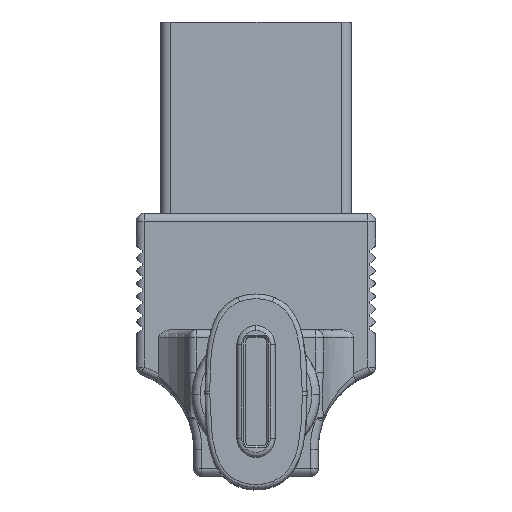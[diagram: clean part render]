
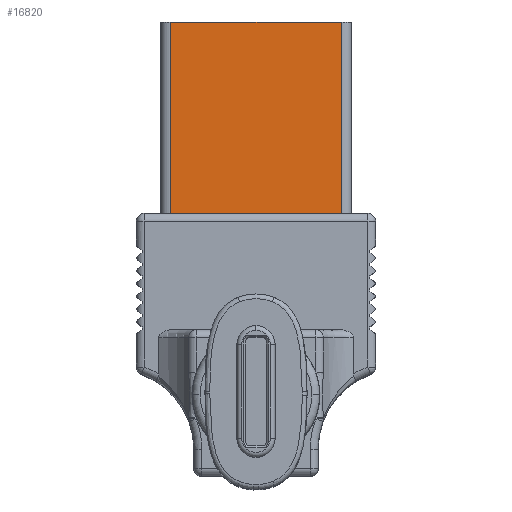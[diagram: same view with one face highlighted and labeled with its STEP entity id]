
A CAD part, top view. The second image highlights one B-rep face of the part: STEP entity #16820.
In plain terms, the highlighted planar face has unit normal (0, 0, 1).
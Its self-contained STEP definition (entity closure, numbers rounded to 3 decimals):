
#180 = AXIS2_PLACEMENT_3D ( 'NONE', #6158, #4679, #8715 ) ;
#766 = CARTESIAN_POINT ( 'NONE',  ( 5.36, 23.4, 2.25 ) ) ;
#817 = FACE_OUTER_BOUND ( 'NONE', #13948, .T. ) ;
#2332 = ORIENTED_EDGE ( 'NONE', *, *, #4817, .F. ) ;
#2371 = DIRECTION ( 'NONE',  ( 0., -1., 0. ) ) ;
#2517 = CARTESIAN_POINT ( 'NONE',  ( 0., 23.4, 2.25 ) ) ;
#3291 = VECTOR ( 'NONE', #6283, 1000. ) ;
#3573 = CARTESIAN_POINT ( 'NONE',  ( -5.36, 8.292, 2.25 ) ) ;
#4491 = VECTOR ( 'NONE', #8029, 1000. ) ;
#4679 = DIRECTION ( 'NONE',  ( 0., 0., -1. ) ) ;
#4817 = EDGE_CURVE ( 'NONE', #8129, #6876, #17295, .T. ) ;
#5081 = LINE ( 'NONE', #14355, #15813 ) ;
#5691 = ORIENTED_EDGE ( 'NONE', *, *, #12818, .F. ) ;
#6158 = CARTESIAN_POINT ( 'NONE',  ( 0., 8.292, 2.25 ) ) ;
#6283 = DIRECTION ( 'NONE',  ( 0., 1., 0. ) ) ;
#6876 = VERTEX_POINT ( 'NONE', #766 ) ;
#8029 = DIRECTION ( 'NONE',  ( 1., 0., 0. ) ) ;
#8129 = VERTEX_POINT ( 'NONE', #12483 ) ;
#8574 = VERTEX_POINT ( 'NONE', #10977 ) ;
#8715 = DIRECTION ( 'NONE',  ( 0., 1., 0. ) ) ;
#9184 = DIRECTION ( 'NONE',  ( 1., 0., 0. ) ) ;
#9894 = ORIENTED_EDGE ( 'NONE', *, *, #16324, .F. ) ;
#10826 = EDGE_CURVE ( 'NONE', #13925, #8574, #14254, .T. ) ;
#10977 = CARTESIAN_POINT ( 'NONE',  ( 5.36, 11.4, 2.25 ) ) ;
#12483 = CARTESIAN_POINT ( 'NONE',  ( -5.36, 23.4, 2.25 ) ) ;
#12818 = EDGE_CURVE ( 'NONE', #6876, #8574, #5081, .T. ) ;
#13031 = CARTESIAN_POINT ( 'NONE',  ( 7.5, 11.4, 2.25 ) ) ;
#13738 = ORIENTED_EDGE ( 'NONE', *, *, #10826, .T. ) ;
#13925 = VERTEX_POINT ( 'NONE', #17220 ) ;
#13948 = EDGE_LOOP ( 'NONE', ( #9894, #13738, #5691, #2332 ) ) ;
#14254 = LINE ( 'NONE', #13031, #15474 ) ;
#14328 = LINE ( 'NONE', #3573, #3291 ) ;
#14355 = CARTESIAN_POINT ( 'NONE',  ( 5.36, 8.292, 2.25 ) ) ;
#15474 = VECTOR ( 'NONE', #9184, 1000. ) ;
#15813 = VECTOR ( 'NONE', #2371, 1000. ) ;
#16324 = EDGE_CURVE ( 'NONE', #13925, #8129, #14328, .T. ) ;
#16668 = PLANE ( 'NONE',  #180 ) ;
#16820 = ADVANCED_FACE ( 'NONE', ( #817 ), #16668, .F. ) ;
#17220 = CARTESIAN_POINT ( 'NONE',  ( -5.36, 11.4, 2.25 ) ) ;
#17295 = LINE ( 'NONE', #2517, #4491 ) ;
